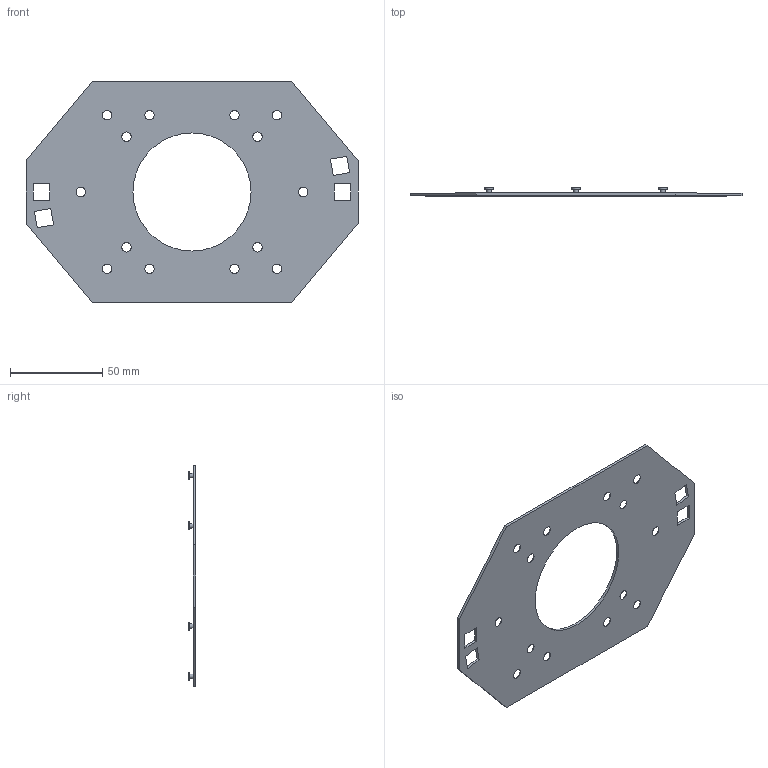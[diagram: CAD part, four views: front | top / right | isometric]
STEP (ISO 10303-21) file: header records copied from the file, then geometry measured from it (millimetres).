
FILE_DESCRIPTION(/* description */ ('STEP AP242','CAx-IF Rec.Pracs.---Representation and Presentation of Product Manufacturing Information (PMI)---4.0---2014-10-13','CAx-IF Rec.Pracs.---3D Tessellated Geometry---0.4---2014-09-14','2;1'),/* implementation_level */ '2;1');
FILE_NAME(/* name */ '6634d9e77859092b1b9c1d67',/* time_stamp */ '2024-05-03T12:34:48Z',/* author */ (''),/* organization */ (''),/* preprocessor_version */ 'ST-DEVELOPER v20',/* originating_system */ ' ',/* authorisation */ ' ');
FILE_SCHEMA (('AP242_MANAGED_MODEL_BASED_3D_ENGINEERING_MIM_LF { 1 0 10303 442 1 1 4 }'));
Length unit declared in the file: metre
Products named in the file (1): UMP 8
Bounding box: 180 x 4.25 x 120 mm (x, y, z)
Volume: 21844.2 mm3; surface area: 31104.3 mm2
Topology: 1 solids, 1 shells, 65 faces, 153 edges, 102 vertices
Faces by surface type: plane 38, cone 14, cylinder 13
Full cylindrical faces by diameter (mm): 2.5 x6, 4.5 x6, 64 x1
Entity records: 2013 total; most frequent: DIRECTION 312, CARTESIAN_POINT 294, ORIENTED_EDGE 252, EDGE_LOOP 142, FACE_BOUND 142, EDGE_CURVE 126, AXIS2_PLACEMENT_3D 120, VERTEX_POINT 102
